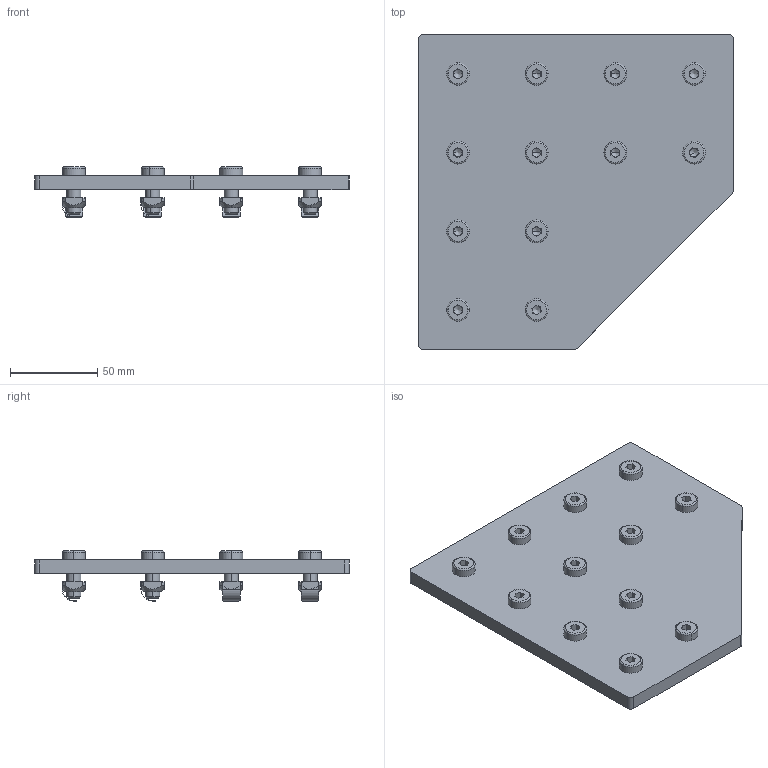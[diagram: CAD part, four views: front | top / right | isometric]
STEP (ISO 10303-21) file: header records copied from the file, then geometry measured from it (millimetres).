
FILE_DESCRIPTION (( 'STEP AP214' ), '1' );
FILE_NAME ('1.3075 90X90 Kulmakiinnityslevy.STEP', '2025-12-01T09:30:33', ( '' ), ( '' ), 'SwSTEP 2.0', 'SolidWorks 2025', '' );
FILE_SCHEMA (( 'AUTOMOTIVE_DESIGN' ));
Length unit declared in the file: millimetre
Products named in the file (1): 1.3075 90X90 Kulmakiinnityslevy
Bounding box: 180 x 180 x 28.65 mm (x, y, z)
Volume: 249289.5 mm3; surface area: 85847.4 mm2
Topology: 25 solids, 25 shells, 756 faces, 1830 edges, 1124 vertices
Faces by surface type: plane 451, cylinder 149, cone 108, torus 48
Entity records: 31527 total; most frequent: CARTESIAN_POINT 5379, DIRECTION 3642, ORIENTED_EDGE 3612, EDGE_CURVE 1806, AXIS2_PLACEMENT_3D 1307, VERTEX_POINT 1124, LINE 1028, VECTOR 1028
